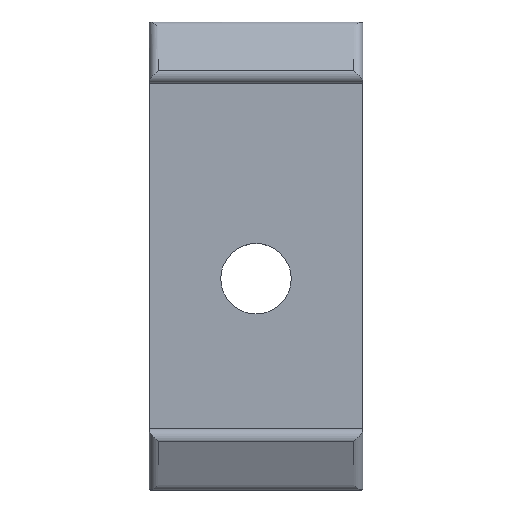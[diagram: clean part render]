
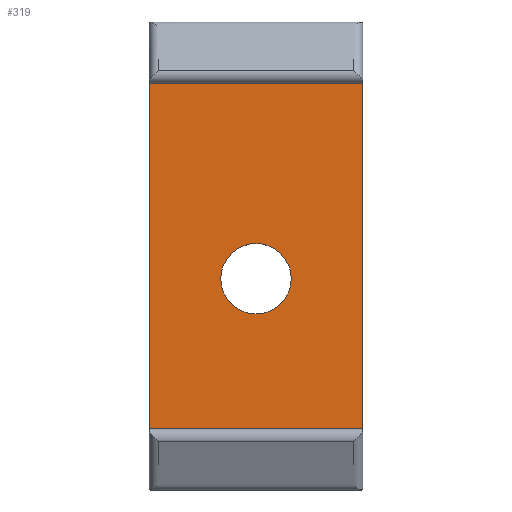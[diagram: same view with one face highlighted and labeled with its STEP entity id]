
A CAD part, top view. The second image highlights one B-rep face of the part: STEP entity #319.
In plain terms, the highlighted planar face has unit normal (0, 0, 1).
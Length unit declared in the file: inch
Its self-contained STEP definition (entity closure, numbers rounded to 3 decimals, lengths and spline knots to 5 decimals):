
#16=FACE_BOUND('',#60,.T.);
#24=PLANE('',#356);
#41=FACE_OUTER_BOUND('',#59,.T.);
#59=EDGE_LOOP('',(#285,#286,#287,#288));
#60=EDGE_LOOP('',(#289));
#71=CIRCLE('',#354,0.0775);
#90=LINE('',#493,#116);
#95=LINE('',#506,#121);
#105=LINE('',#537,#131);
#106=LINE('',#539,#132);
#116=VECTOR('',#395,0.3937);
#121=VECTOR('',#406,0.3937);
#131=VECTOR('',#440,0.3937);
#132=VECTOR('',#443,0.3937);
#145=VERTEX_POINT('',#490);
#146=VERTEX_POINT('',#492);
#151=VERTEX_POINT('',#504);
#160=VERTEX_POINT('',#535);
#161=VERTEX_POINT('',#542);
#180=EDGE_CURVE('',#146,#145,#90,.T.);
#187=EDGE_CURVE('',#145,#151,#95,.T.);
#203=EDGE_CURVE('',#151,#160,#105,.T.);
#204=EDGE_CURVE('',#160,#146,#106,.T.);
#205=EDGE_CURVE('',#161,#161,#71,.T.);
#285=ORIENTED_EDGE('',*,*,#204,.T.);
#286=ORIENTED_EDGE('',*,*,#180,.T.);
#287=ORIENTED_EDGE('',*,*,#187,.T.);
#288=ORIENTED_EDGE('',*,*,#203,.T.);
#289=ORIENTED_EDGE('',*,*,#205,.T.);
#319=ADVANCED_FACE('',(#41,#16),#24,.T.);
#354=AXIS2_PLACEMENT_3D('',#543,#448,#449);
#356=AXIS2_PLACEMENT_3D('',#546,#452,#453);
#395=DIRECTION('',(0.,-1.,0.));
#406=DIRECTION('',(1.,0.,0.));
#440=DIRECTION('',(0.,1.,0.));
#443=DIRECTION('',(-1.,0.,0.));
#448=DIRECTION('center_axis',(0.,0.,-1.));
#449=DIRECTION('ref_axis',(1.,0.,0.));
#452=DIRECTION('center_axis',(0.,0.,1.));
#453=DIRECTION('ref_axis',(1.,0.,0.));
#490=CARTESIAN_POINT('',(-0.235,-0.33,0.04));
#492=CARTESIAN_POINT('',(-0.235,0.43,0.04));
#493=CARTESIAN_POINT('',(-0.235,0.43,0.04));
#504=CARTESIAN_POINT('',(0.235,-0.33,0.04));
#506=CARTESIAN_POINT('',(0.235,-0.33,0.04));
#535=CARTESIAN_POINT('',(0.235,0.43,0.04));
#537=CARTESIAN_POINT('',(0.235,-0.33,0.04));
#539=CARTESIAN_POINT('',(0.235,0.43,0.04));
#542=CARTESIAN_POINT('',(-0.0775,0.,0.04));
#543=CARTESIAN_POINT('Origin',(0.,0.,0.04));
#546=CARTESIAN_POINT('Origin',(0.,0.05,0.04));
